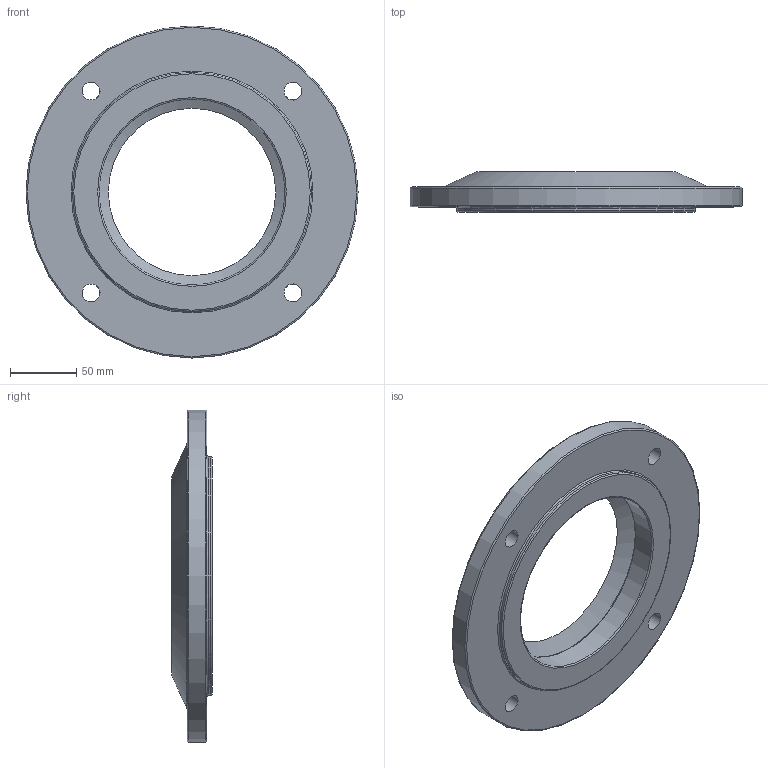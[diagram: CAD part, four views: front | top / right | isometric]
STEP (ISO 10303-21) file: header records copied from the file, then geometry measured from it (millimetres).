
FILE_DESCRIPTION((''),'2;1');
FILE_NAME('D:\PAWEŁ\ZLECENIA\DualSystem\001 Modele\DKAB60_\DK_60_STEP\AF_F_60.stp','2011-11-25T00:12:23',('Pawe'),(''),'Autodesk Inventor 2009','Autodesk Inventor 2009','');
FILE_SCHEMA(('AUTOMOTIVE_DESIGN { 1 0 10303 214 1 1 1 1 }'));
Length unit declared in the file: millimetre
Products named in the file (1): AF_F_60
Bounding box: 250 x 30.5 x 250 mm (x, y, z)
Volume: 607184.3 mm3; surface area: 115929.8 mm2
Topology: 1 solids, 1 shells, 21 faces, 53 edges, 33 vertices
Faces by surface type: bspline 6, plane 5, torus 5, cylinder 3, cone 2
Full cylindrical faces by diameter (mm): 140 x1, 180 x1, 250 x1
Entity records: 718 total; most frequent: CARTESIAN_POINT 272, DIRECTION 88, ORIENTED_EDGE 64, EDGE_LOOP 46, AXIS2_PLACEMENT_3D 44, EDGE_CURVE 32, VERTEX_POINT 28, CIRCLE 28
